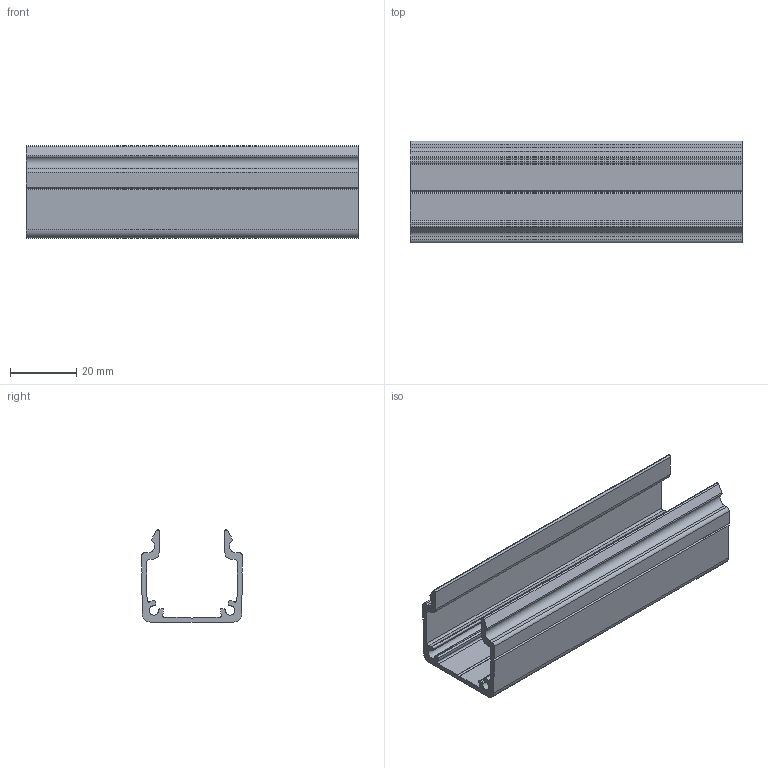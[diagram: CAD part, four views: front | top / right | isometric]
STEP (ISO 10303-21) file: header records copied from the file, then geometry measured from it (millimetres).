
FILE_DESCRIPTION (( 'STEP AP203' ), '1' );
FILE_NAME ('084.101.092.STEP', '2021-03-24T08:24:25', ( '' ), ( '' ), 'SwSTEP 2.0', 'SolidWorks 2018', '' );
FILE_SCHEMA (( 'CONFIG_CONTROL_DESIGN' ));
Length unit declared in the file: millimetre
Products named in the file (1): 084.101.092
Bounding box: 100 x 30.54 x 27.78 mm (x, y, z)
Volume: 16059.6 mm3; surface area: 19111.9 mm2
Topology: 1 solids, 1 shells, 70 faces, 204 edges, 136 vertices
Faces by surface type: cylinder 41, plane 29
Entity records: 2427 total; most frequent: DIRECTION 428, CARTESIAN_POINT 411, ORIENTED_EDGE 408, EDGE_CURVE 204, AXIS2_PLACEMENT_3D 153, VERTEX_POINT 136, LINE 122, VECTOR 122
